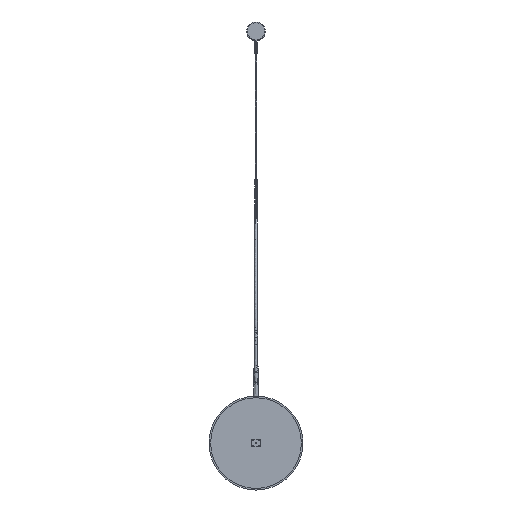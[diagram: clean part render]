
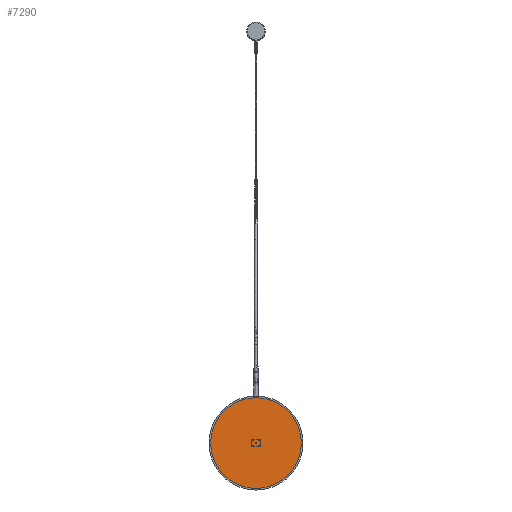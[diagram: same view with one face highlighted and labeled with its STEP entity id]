
A CAD part, front view. The second image highlights one B-rep face of the part: STEP entity #7290.
In plain terms, the highlighted planar face has unit normal (0, -1, 0).
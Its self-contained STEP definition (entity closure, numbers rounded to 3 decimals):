
#194=FACE_BOUND('',#967,.T.);
#195=FACE_BOUND('',#968,.T.);
#196=FACE_BOUND('',#969,.T.);
#197=FACE_BOUND('',#970,.T.);
#289=PLANE('',#7851);
#522=FACE_OUTER_BOUND('',#966,.T.);
#966=EDGE_LOOP('',(#4982));
#967=EDGE_LOOP('',(#4983));
#968=EDGE_LOOP('',(#4984));
#969=EDGE_LOOP('',(#4985));
#970=EDGE_LOOP('',(#4986));
#1446=CIRCLE('',#7838,3.6);
#1448=CIRCLE('',#7841,3.6);
#1450=CIRCLE('',#7844,3.6);
#1452=CIRCLE('',#7847,3.6);
#1454=CIRCLE('',#7850,290.);
#2988=VERTEX_POINT('',#12919);
#2990=VERTEX_POINT('',#12925);
#2992=VERTEX_POINT('',#12931);
#2994=VERTEX_POINT('',#12937);
#2996=VERTEX_POINT('',#12943);
#3735=EDGE_CURVE('',#2988,#2988,#1446,.T.);
#3738=EDGE_CURVE('',#2990,#2990,#1448,.T.);
#3741=EDGE_CURVE('',#2992,#2992,#1450,.T.);
#3744=EDGE_CURVE('',#2994,#2994,#1452,.T.);
#3747=EDGE_CURVE('',#2996,#2996,#1454,.T.);
#4982=ORIENTED_EDGE('',*,*,#3747,.T.);
#4983=ORIENTED_EDGE('',*,*,#3735,.T.);
#4984=ORIENTED_EDGE('',*,*,#3738,.T.);
#4985=ORIENTED_EDGE('',*,*,#3741,.T.);
#4986=ORIENTED_EDGE('',*,*,#3744,.T.);
#7290=ADVANCED_FACE('',(#522,#194,#195,#196,#197),#289,.F.);
#7838=AXIS2_PLACEMENT_3D('',#12921,#8749,#8750);
#7841=AXIS2_PLACEMENT_3D('',#12927,#8756,#8757);
#7844=AXIS2_PLACEMENT_3D('',#12933,#8763,#8764);
#7847=AXIS2_PLACEMENT_3D('',#12939,#8770,#8771);
#7850=AXIS2_PLACEMENT_3D('',#12945,#8777,#8778);
#7851=AXIS2_PLACEMENT_3D('',#12946,#8779,#8780);
#8749=DIRECTION('center_axis',(0.,1.,0.));
#8750=DIRECTION('ref_axis',(1.,0.,0.));
#8756=DIRECTION('center_axis',(0.,1.,0.));
#8757=DIRECTION('ref_axis',(1.,0.,0.));
#8763=DIRECTION('center_axis',(0.,1.,0.));
#8764=DIRECTION('ref_axis',(1.,0.,0.));
#8770=DIRECTION('center_axis',(0.,1.,0.));
#8771=DIRECTION('ref_axis',(1.,0.,0.));
#8777=DIRECTION('center_axis',(0.,-1.,0.));
#8778=DIRECTION('ref_axis',(1.,0.,0.));
#8779=DIRECTION('center_axis',(0.,1.,0.));
#8780=DIRECTION('ref_axis',(0.,0.,
1.));
#12919=CARTESIAN_POINT('',(-21.278,0.,-17.678));
#12921=CARTESIAN_POINT('Origin',(-17.678,0.,
-17.678));
#12925=CARTESIAN_POINT('',(14.078,0.,17.678));
#12927=CARTESIAN_POINT('Origin',(17.678,0.,
17.678));
#12931=CARTESIAN_POINT('',(14.078,0.,-17.678));
#12933=CARTESIAN_POINT('Origin',(17.678,0.,
-17.678));
#12937=CARTESIAN_POINT('',(-21.278,0.,17.678));
#12939=CARTESIAN_POINT('Origin',(-17.678,0.,
17.678));
#12943=CARTESIAN_POINT('',(-290.,0.,0.));
#12945=CARTESIAN_POINT('Origin',(0.,0.,
0.));
#12946=CARTESIAN_POINT('Origin',(0.,0.,
0.));
